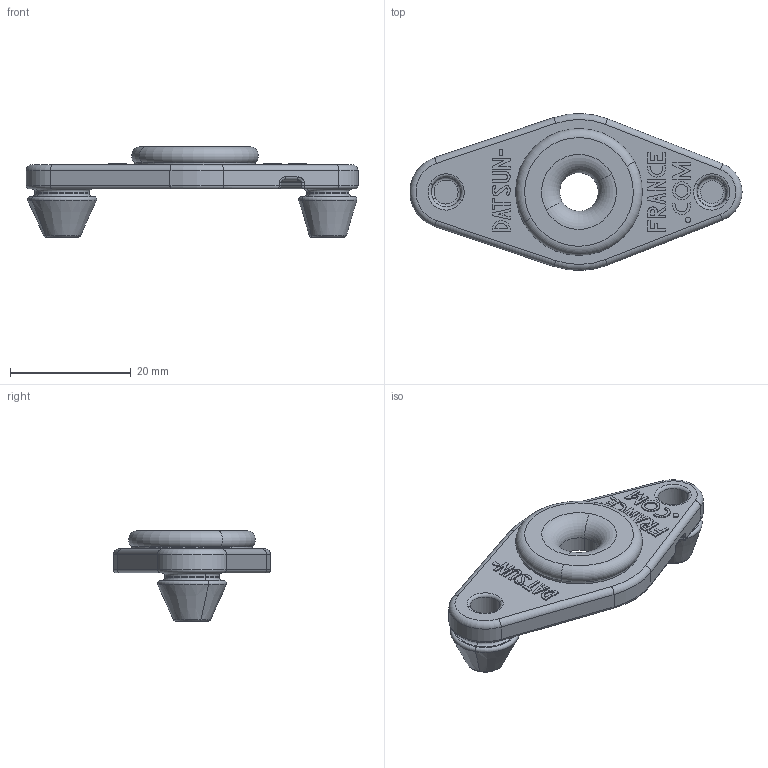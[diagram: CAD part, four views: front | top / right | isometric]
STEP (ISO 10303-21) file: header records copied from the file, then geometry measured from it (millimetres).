
FILE_DESCRIPTION(('CATIA V5 STEP Exchange'),'2;1');
FILE_NAME('\\f-imhotep\home2$\a187334\MyDocs\Door-Switch-rubber_v5.stp','2017-04-02T17:15:40+00:00',('none'),('none'),'CATIA Version 5 Release 19 SP 9 (IN-10)','CATIA V5 STEP AP203','none');
FILE_SCHEMA(('CONFIG_CONTROL_DESIGN'));
Length unit declared in the file: millimetre
Products named in the file (1): Door-Switch-rubber
Bounding box: 54.98 x 25.99 x 15 mm (x, y, z)
Volume: 3346.1 mm3; surface area: 4041.2 mm2
Topology: 1 solids, 1 shells, 359 faces, 847 edges, 510 vertices
Faces by surface type: plane 167, cylinder 88, torus 72, sphere 15, cone 8, bspline 5, extrusion 4
Entity records: 9940 total; most frequent: CARTESIAN_POINT 2272, ORIENTED_EDGE 1664, DIRECTION 1312, EDGE_CURVE 832, AXIS2_PLACEMENT_3D 564, VERTEX_POINT 510, VECTOR 492, LINE 488
